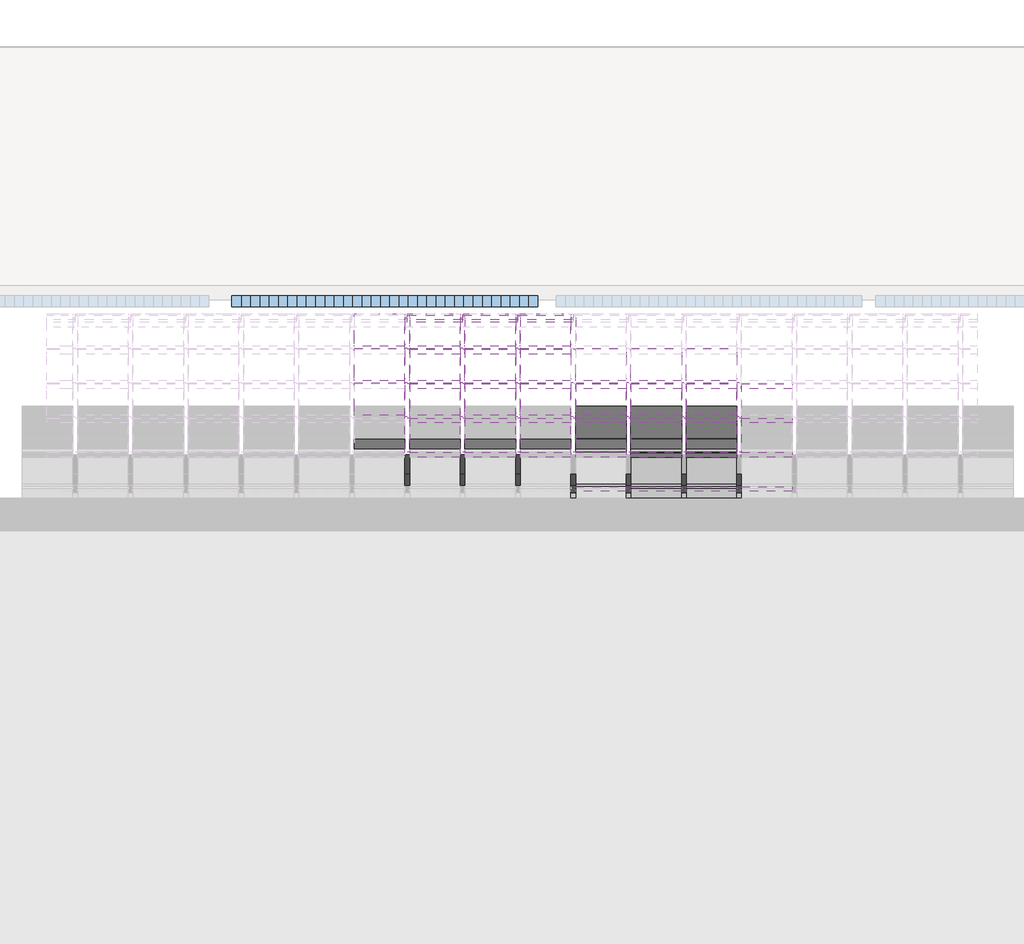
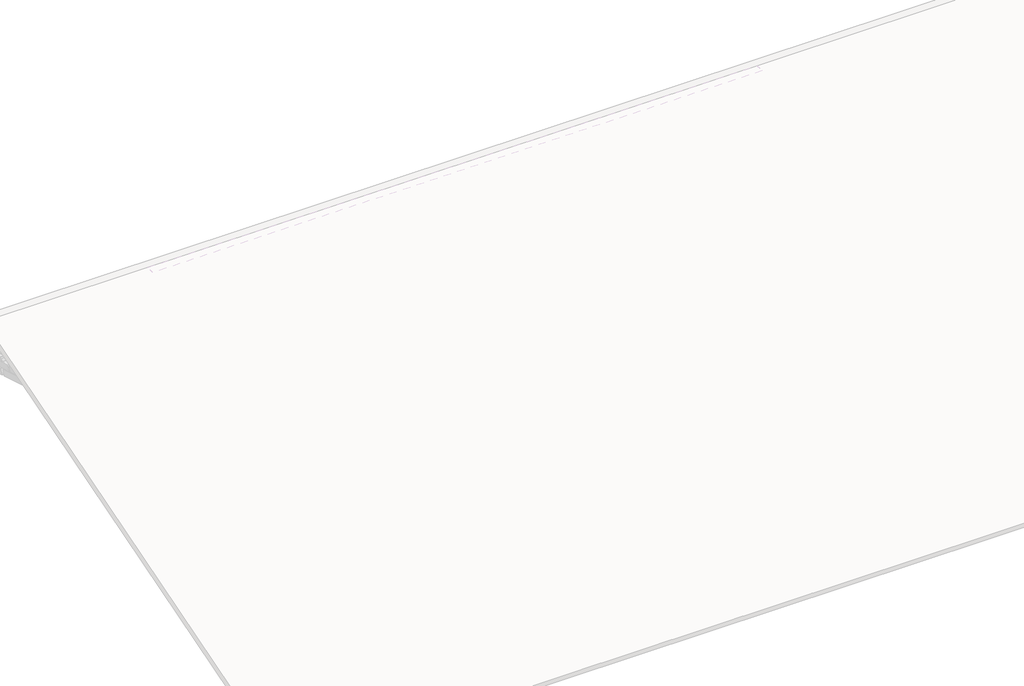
# One storey, part 20 of 57: 88 members, 32 plates, 1 window.
"""IFC4 building model written with IfcOpenShell, lengths in millimetres."""

from ifc_helpers import new_model, si_unit, origin, place, context, project, spatial, transform, mapped, element, save
from components import rectangular_mullion_4c4137b9, rectangular_mullion_59984080, rectangular_mullion_2d2423ea, rectangular_mullion_3ac3718c, rectangular_mullion_caibro_df98490b, rectangular_mullion_caibro_e4384bba, rectangular_mullion_caibro_0993a3cf, rectangular_mullion_caibro_9bd7bc61, rectangular_mullion_caibro_650698a1, empty_system_panel_vazio_178faf58, empty_system_panel_vazio_2c78850d, window_60306791, window_6c828501, window_02d14e1e

model = new_model("IFC4")

# Units and contexts
model_context = context("Model", 3, world=origin())
ifc_project = project(units=[si_unit("LENGTHUNIT", "METRE", prefix="MILLI")], contexts=[model_context])

# Site, building, storey
site = spatial("IfcSite", under=ifc_project)
building = spatial("IfcBuilding", under=site)
storey = spatial("IfcBuildingStorey", under=building, Name="Nível 2", Elevation=4100.0)

# Members
placement = place(None, origin())
rectangular_mullion_shape = rectangular_mullion_4c4137b9(model_context)
element("IfcMember", 1, ObjectType="Rectangular Mullion : Ripa", at=placement, inside=storey, context=model_context, shape_type="MappedRepresentation", body=[
    mapped(rectangular_mullion_shape, transform((8319.2829728, 15566.1284427, 5819.8877114), x_axis=(0.0, 0.9578262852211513, 0.2873478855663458), y_axis=(0.0, 0.2873478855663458, -0.9578262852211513), z_axis=(-1.0, 0.0, 0.0))),
])
element("IfcMember", 2, ObjectType="Rectangular Mullion : Ripa", at=placement, inside=storey, context=model_context, shape_type="MappedRepresentation", body=[
    mapped(rectangular_mullion_shape, transform((8916.3377293, 15566.1284427, 5819.8877114), x_axis=(0.0, 0.9578262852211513, 0.2873478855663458), y_axis=(0.0, 0.2873478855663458, -0.9578262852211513), z_axis=(-1.0, 0.0, 0.0))),
])
element("IfcMember", 3, ObjectType="Rectangular Mullion : Ripa", at=placement, inside=storey, context=model_context, shape_type="MappedRepresentation", body=[
    mapped(rectangular_mullion_shape, transform((9513.3924857, 15566.1284427, 5819.8877114), x_axis=(0.0, 0.9578262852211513, 0.2873478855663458), y_axis=(0.0, 0.2873478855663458, -0.9578262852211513), z_axis=(-1.0, 0.0, 0.0))),
])
rectangular_mullion_2_shape = rectangular_mullion_59984080(model_context)
element("IfcMember", 4, ObjectType="Rectangular Mullion : Ripa", at=placement, inside=storey, context=model_context, shape_type="MappedRepresentation", body=[
    mapped(rectangular_mullion_2_shape, transform((10135.4472421, 13345.0648907, 5153.5686458), x_axis=(0.0, 0.9578262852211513, 0.2873478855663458), y_axis=(0.0, 0.2873478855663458, -0.9578262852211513), z_axis=(-1.0, 0.0, 0.0))),
])
element("IfcMember", 5, ObjectType="Rectangular Mullion : Ripa", at=placement, inside=storey, context=model_context, shape_type="MappedRepresentation", body=[
    mapped(rectangular_mullion_2_shape, transform((10732.5019985, 13345.0648907, 5153.5686458), x_axis=(0.0, 0.9578262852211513, 0.2873478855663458), y_axis=(0.0, 0.2873478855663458, -0.9578262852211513), z_axis=(-1.0, 0.0, 0.0))),
])
element("IfcMember", 6, ObjectType="Rectangular Mullion : Ripa", at=placement, inside=storey, context=model_context, shape_type="MappedRepresentation", body=[
    mapped(rectangular_mullion_2_shape, transform((11329.556755, 13345.0648907, 5153.5686458), x_axis=(0.0, 0.9578262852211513, 0.2873478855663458), y_axis=(0.0, 0.2873478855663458, -0.9578262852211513), z_axis=(-1.0, 0.0, 0.0))),
])
element("IfcMember", 7, ObjectType="Rectangular Mullion : Ripa", at=placement, inside=storey, context=model_context, shape_type="MappedRepresentation", body=[
    mapped(rectangular_mullion_2_shape, transform((11926.6115114, 13345.0648907, 5153.5686458), x_axis=(0.0, 0.9578262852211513, 0.2873478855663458), y_axis=(0.0, 0.2873478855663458, -0.9578262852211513), z_axis=(-1.0, 0.0, 0.0))),
])
element("IfcMember", 8, ObjectType="Rectangular Mullion : Ripa", at=placement, inside=storey, context=model_context, shape_type="MappedRepresentation", body=[
    mapped(rectangular_mullion_2_shape, transform((10135.4472421, 13715.2421494, 5264.6218234), x_axis=(0.0, 0.9578262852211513, 0.2873478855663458), y_axis=(0.0, 0.2873478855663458, -0.9578262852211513), z_axis=(-1.0, 0.0, 0.0))),
])
element("IfcMember", 9, ObjectType="Rectangular Mullion : Ripa", at=placement, inside=storey, context=model_context, shape_type="MappedRepresentation", body=[
    mapped(rectangular_mullion_2_shape, transform((10732.5019985, 13715.2421494, 5264.6218234), x_axis=(0.0, 0.9578262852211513, 0.2873478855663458), y_axis=(0.0, 0.2873478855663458, -0.9578262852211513), z_axis=(-1.0, 0.0, 0.0))),
])
element("IfcMember", 10, ObjectType="Rectangular Mullion : Ripa", at=placement, inside=storey, context=model_context, shape_type="MappedRepresentation", body=[
    mapped(rectangular_mullion_2_shape, transform((11329.556755, 13715.2421494, 5264.6218234), x_axis=(0.0, 0.9578262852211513, 0.2873478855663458), y_axis=(0.0, 0.2873478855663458, -0.9578262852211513), z_axis=(-1.0, 0.0, 0.0))),
])
element("IfcMember", 11, ObjectType="Rectangular Mullion : Ripa", at=placement, inside=storey, context=model_context, shape_type="MappedRepresentation", body=[
    mapped(rectangular_mullion_2_shape, transform((11926.6115114, 13715.2421494, 5264.6218234), x_axis=(0.0, 0.9578262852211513, 0.2873478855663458), y_axis=(0.0, 0.2873478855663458, -0.9578262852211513), z_axis=(-1.0, 0.0, 0.0))),
])
element("IfcMember", 12, ObjectType="Rectangular Mullion : Ripa", at=placement, inside=storey, context=model_context, shape_type="MappedRepresentation", body=[
    mapped(rectangular_mullion_2_shape, transform((8344.2829728, 14085.4194081, 5375.675001), x_axis=(0.0, 0.9578262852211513, 0.2873478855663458), y_axis=(0.0, 0.2873478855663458, -0.9578262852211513), z_axis=(-1.0, 0.0, 0.0))),
])
element("IfcMember", 13, ObjectType="Rectangular Mullion : Ripa", at=placement, inside=storey, context=model_context, shape_type="MappedRepresentation", body=[
    mapped(rectangular_mullion_2_shape, transform((8941.3377293, 14085.4194081, 5375.675001), x_axis=(0.0, 0.9578262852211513, 0.2873478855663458), y_axis=(0.0, 0.2873478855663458, -0.9578262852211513), z_axis=(-1.0, 0.0, 0.0))),
])
element("IfcMember", 14, ObjectType="Rectangular Mullion : Ripa", at=placement, inside=storey, context=model_context, shape_type="MappedRepresentation", body=[
    mapped(rectangular_mullion_2_shape, transform((9538.3924857, 14085.4194081, 5375.675001), x_axis=(0.0, 0.9578262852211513, 0.2873478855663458), y_axis=(0.0, 0.2873478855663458, -0.9578262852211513), z_axis=(-1.0, 0.0, 0.0))),
])
element("IfcMember", 15, ObjectType="Rectangular Mullion : Ripa", at=placement, inside=storey, context=model_context, shape_type="MappedRepresentation", body=[
    mapped(rectangular_mullion_2_shape, transform((10135.4472421, 14085.4194081, 5375.675001), x_axis=(0.0, 0.9578262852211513, 0.2873478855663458), y_axis=(0.0, 0.2873478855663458, -0.9578262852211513), z_axis=(-1.0, 0.0, 0.0))),
])
element("IfcMember", 16, ObjectType="Rectangular Mullion : Ripa", at=placement, inside=storey, context=model_context, shape_type="MappedRepresentation", body=[
    mapped(rectangular_mullion_2_shape, transform((10732.5019985, 14085.4194081, 5375.675001), x_axis=(0.0, 0.9578262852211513, 0.2873478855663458), y_axis=(0.0, 0.2873478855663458, -0.9578262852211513), z_axis=(-1.0, 0.0, 0.0))),
])
element("IfcMember", 17, ObjectType="Rectangular Mullion : Ripa", at=placement, inside=storey, context=model_context, shape_type="MappedRepresentation", body=[
    mapped(rectangular_mullion_2_shape, transform((11329.556755, 14085.4194081, 5375.675001), x_axis=(0.0, 0.9578262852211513, 0.2873478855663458), y_axis=(0.0, 0.2873478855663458, -0.9578262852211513), z_axis=(-1.0, 0.0, 0.0))),
])
element("IfcMember", 18, ObjectType="Rectangular Mullion : Ripa", at=placement, inside=storey, context=model_context, shape_type="MappedRepresentation", body=[
    mapped(rectangular_mullion_2_shape, transform((11926.6115114, 14085.4194081, 5375.675001), x_axis=(0.0, 0.9578262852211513, 0.2873478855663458), y_axis=(0.0, 0.2873478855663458, -0.9578262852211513), z_axis=(-1.0, 0.0, 0.0))),
])
element("IfcMember", 19, ObjectType="Rectangular Mullion : Ripa", at=placement, inside=storey, context=model_context, shape_type="MappedRepresentation", body=[
    mapped(rectangular_mullion_2_shape, transform((8344.2829728, 14455.5966667, 5486.7281786), x_axis=(0.0, 0.9578262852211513, 0.2873478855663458), y_axis=(0.0, 0.2873478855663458, -0.9578262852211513), z_axis=(-1.0, 0.0, 0.0))),
])
element("IfcMember", 20, ObjectType="Rectangular Mullion : Ripa", at=placement, inside=storey, context=model_context, shape_type="MappedRepresentation", body=[
    mapped(rectangular_mullion_2_shape, transform((8941.3377293, 14455.5966667, 5486.7281786), x_axis=(0.0, 0.9578262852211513, 0.2873478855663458), y_axis=(0.0, 0.2873478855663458, -0.9578262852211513), z_axis=(-1.0, 0.0, 0.0))),
])
element("IfcMember", 21, ObjectType="Rectangular Mullion : Ripa", at=placement, inside=storey, context=model_context, shape_type="MappedRepresentation", body=[
    mapped(rectangular_mullion_2_shape, transform((9538.3924857, 14455.5966667, 5486.7281786), x_axis=(0.0, 0.9578262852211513, 0.2873478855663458), y_axis=(0.0, 0.2873478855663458, -0.9578262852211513), z_axis=(-1.0, 0.0, 0.0))),
])
element("IfcMember", 22, ObjectType="Rectangular Mullion : Ripa", at=placement, inside=storey, context=model_context, shape_type="MappedRepresentation", body=[
    mapped(rectangular_mullion_2_shape, transform((10135.4472421, 14455.5966667, 5486.7281786), x_axis=(0.0, 0.9578262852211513, 0.2873478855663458), y_axis=(0.0, 0.2873478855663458, -0.9578262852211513), z_axis=(-1.0, 0.0, 0.0))),
])
element("IfcMember", 23, ObjectType="Rectangular Mullion : Ripa", at=placement, inside=storey, context=model_context, shape_type="MappedRepresentation", body=[
    mapped(rectangular_mullion_2_shape, transform((10732.5019985, 14455.5966667, 5486.7281786), x_axis=(0.0, 0.9578262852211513, 0.2873478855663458), y_axis=(0.0, 0.2873478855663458, -0.9578262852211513), z_axis=(-1.0, 0.0, 0.0))),
])
element("IfcMember", 24, ObjectType="Rectangular Mullion : Ripa", at=placement, inside=storey, context=model_context, shape_type="MappedRepresentation", body=[
    mapped(rectangular_mullion_2_shape, transform((11329.556755, 14455.5966667, 5486.7281786), x_axis=(0.0, 0.9578262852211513, 0.2873478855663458), y_axis=(0.0, 0.2873478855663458, -0.9578262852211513), z_axis=(-1.0, 0.0, 0.0))),
])
element("IfcMember", 25, ObjectType="Rectangular Mullion : Ripa", at=placement, inside=storey, context=model_context, shape_type="MappedRepresentation", body=[
    mapped(rectangular_mullion_2_shape, transform((11926.6115114, 14455.5966667, 5486.7281786), x_axis=(0.0, 0.9578262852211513, 0.2873478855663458), y_axis=(0.0, 0.2873478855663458, -0.9578262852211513), z_axis=(-1.0, 0.0, 0.0))),
])
element("IfcMember", 26, ObjectType="Rectangular Mullion : Ripa", at=placement, inside=storey, context=model_context, shape_type="MappedRepresentation", body=[
    mapped(rectangular_mullion_2_shape, transform((8344.2829728, 14825.7739254, 5597.7813562), x_axis=(0.0, 0.9578262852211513, 0.2873478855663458), y_axis=(0.0, 0.2873478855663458, -0.9578262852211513), z_axis=(-1.0, 0.0, 0.0))),
])
element("IfcMember", 27, ObjectType="Rectangular Mullion : Ripa", at=placement, inside=storey, context=model_context, shape_type="MappedRepresentation", body=[
    mapped(rectangular_mullion_2_shape, transform((8941.3377293, 14825.7739254, 5597.7813562), x_axis=(0.0, 0.9578262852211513, 0.2873478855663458), y_axis=(0.0, 0.2873478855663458, -0.9578262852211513), z_axis=(-1.0, 0.0, 0.0))),
])
element("IfcMember", 28, ObjectType="Rectangular Mullion : Ripa", at=placement, inside=storey, context=model_context, shape_type="MappedRepresentation", body=[
    mapped(rectangular_mullion_2_shape, transform((9538.3924857, 14825.7739254, 5597.7813562), x_axis=(0.0, 0.9578262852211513, 0.2873478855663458), y_axis=(0.0, 0.2873478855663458, -0.9578262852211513), z_axis=(-1.0, 0.0, 0.0))),
])
element("IfcMember", 29, ObjectType="Rectangular Mullion : Ripa", at=placement, inside=storey, context=model_context, shape_type="MappedRepresentation", body=[
    mapped(rectangular_mullion_2_shape, transform((10135.4472421, 14825.7739254, 5597.7813562), x_axis=(0.0, 0.9578262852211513, 0.2873478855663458), y_axis=(0.0, 0.2873478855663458, -0.9578262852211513), z_axis=(-1.0, 0.0, 0.0))),
])
element("IfcMember", 30, ObjectType="Rectangular Mullion : Ripa", at=placement, inside=storey, context=model_context, shape_type="MappedRepresentation", body=[
    mapped(rectangular_mullion_2_shape, transform((10732.5019985, 14825.7739254, 5597.7813562), x_axis=(0.0, 0.9578262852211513, 0.2873478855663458), y_axis=(0.0, 0.2873478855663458, -0.9578262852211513), z_axis=(-1.0, 0.0, 0.0))),
])
element("IfcMember", 31, ObjectType="Rectangular Mullion : Ripa", at=placement, inside=storey, context=model_context, shape_type="MappedRepresentation", body=[
    mapped(rectangular_mullion_2_shape, transform((11329.556755, 14825.7739254, 5597.7813562), x_axis=(0.0, 0.9578262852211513, 0.2873478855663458), y_axis=(0.0, 0.2873478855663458, -0.9578262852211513), z_axis=(-1.0, 0.0, 0.0))),
])
element("IfcMember", 32, ObjectType="Rectangular Mullion : Ripa", at=placement, inside=storey, context=model_context, shape_type="MappedRepresentation", body=[
    mapped(rectangular_mullion_2_shape, transform((11926.6115114, 14825.7739254, 5597.7813562), x_axis=(0.0, 0.9578262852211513, 0.2873478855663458), y_axis=(0.0, 0.2873478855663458, -0.9578262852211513), z_axis=(-1.0, 0.0, 0.0))),
])
element("IfcMember", 33, ObjectType="Rectangular Mullion : Ripa", at=placement, inside=storey, context=model_context, shape_type="MappedRepresentation", body=[
    mapped(rectangular_mullion_2_shape, transform((8344.2829728, 15195.9511841, 5708.8345338), x_axis=(0.0, 0.9578262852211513, 0.2873478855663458), y_axis=(0.0, 0.2873478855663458, -0.9578262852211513), z_axis=(-1.0, 0.0, 0.0))),
])
element("IfcMember", 34, ObjectType="Rectangular Mullion : Ripa", at=placement, inside=storey, context=model_context, shape_type="MappedRepresentation", body=[
    mapped(rectangular_mullion_2_shape, transform((8941.3377293, 15195.9511841, 5708.8345338), x_axis=(0.0, 0.9578262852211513, 0.2873478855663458), y_axis=(0.0, 0.2873478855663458, -0.9578262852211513), z_axis=(-1.0, 0.0, 0.0))),
])
element("IfcMember", 35, ObjectType="Rectangular Mullion : Ripa", at=placement, inside=storey, context=model_context, shape_type="MappedRepresentation", body=[
    mapped(rectangular_mullion_2_shape, transform((9538.3924857, 15195.9511841, 5708.8345338), x_axis=(0.0, 0.9578262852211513, 0.2873478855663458), y_axis=(0.0, 0.2873478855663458, -0.9578262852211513), z_axis=(-1.0, 0.0, 0.0))),
])
rectangular_mullion_3_shape = rectangular_mullion_2d2423ea(model_context)
element("IfcMember", 36, ObjectType="Rectangular Mullion : Terça", at=placement, inside=storey, context=model_context, shape_type="MappedRepresentation", body=[
    mapped(rectangular_mullion_3_shape, transform((10135.4472421, 13411.2689826, 5110.7880343), x_axis=(0.0, 0.9578262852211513, 0.2873478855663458), y_axis=(0.0, 0.2873478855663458, -0.9578262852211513), z_axis=(-1.0, 0.0, 0.0))),
])
element("IfcMember", 37, ObjectType="Rectangular Mullion : Terça", at=placement, inside=storey, context=model_context, shape_type="MappedRepresentation", body=[
    mapped(rectangular_mullion_3_shape, transform((10732.5019985, 13411.2689826, 5110.7880343), x_axis=(0.0, 0.9578262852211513, 0.2873478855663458), y_axis=(0.0, 0.2873478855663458, -0.9578262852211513), z_axis=(-1.0, 0.0, 0.0))),
])
element("IfcMember", 38, ObjectType="Rectangular Mullion : Terça", at=placement, inside=storey, context=model_context, shape_type="MappedRepresentation", body=[
    mapped(rectangular_mullion_3_shape, transform((11329.556755, 13411.2689826, 5110.7880343), x_axis=(0.0, 0.9578262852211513, 0.2873478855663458), y_axis=(0.0, 0.2873478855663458, -0.9578262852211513), z_axis=(-1.0, 0.0, 0.0))),
])
element("IfcMember", 39, ObjectType="Rectangular Mullion : Terça", at=placement, inside=storey, context=model_context, shape_type="MappedRepresentation", body=[
    mapped(rectangular_mullion_3_shape, transform((11926.6115114, 13411.2689826, 5110.7880343), x_axis=(0.0, 0.9578262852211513, 0.2873478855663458), y_axis=(0.0, 0.2873478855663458, -0.9578262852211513), z_axis=(-1.0, 0.0, 0.0))),
])
rectangular_mullion_4_shape = rectangular_mullion_3ac3718c(model_context)
element("IfcMember", 40, ObjectType="Rectangular Mullion : Terça", at=placement, inside=storey, context=model_context, shape_type="MappedRepresentation", body=[
    mapped(rectangular_mullion_4_shape, transform((8319.2829728, 15566.1284427, 5757.2458723), x_axis=(0.0, 0.9578262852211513, 0.2873478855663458), y_axis=(0.0, 0.2873478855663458, -0.9578262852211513), z_axis=(-1.0, 0.0, 0.0))),
])
element("IfcMember", 41, ObjectType="Rectangular Mullion : Terça", at=placement, inside=storey, context=model_context, shape_type="MappedRepresentation", body=[
    mapped(rectangular_mullion_4_shape, transform((8916.3377293, 15566.1284427, 5757.2458723), x_axis=(0.0, 0.9578262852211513, 0.2873478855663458), y_axis=(0.0, 0.2873478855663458, -0.9578262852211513), z_axis=(-1.0, 0.0, 0.0))),
])
element("IfcMember", 42, ObjectType="Rectangular Mullion : Terça", at=placement, inside=storey, context=model_context, shape_type="MappedRepresentation", body=[
    mapped(rectangular_mullion_4_shape, transform((9513.3924857, 15566.1284427, 5757.2458723), x_axis=(0.0, 0.9578262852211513, 0.2873478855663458), y_axis=(0.0, 0.2873478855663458, -0.9578262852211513), z_axis=(-1.0, 0.0, 0.0))),
])
rectangular_mullion_caibro_shape = rectangular_mullion_caibro_df98490b(model_context)
element("IfcMember", 43, ObjectType="Rectangular Mullion : Caibro", at=placement, inside=storey, context=model_context, shape_type="MappedRepresentation", body=[
    mapped(rectangular_mullion_caibro_shape, transform((8319.2829728, 15518.2371285, 5805.5203171), x_axis=(1.0, 0.0, 0.0), y_axis=(0.0, 0.28734788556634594, -0.9578262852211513), z_axis=(0.0, 0.9578262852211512, 0.2873478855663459))),
])
element("IfcMember", 44, ObjectType="Rectangular Mullion : Caibro", at=placement, inside=storey, context=model_context, shape_type="MappedRepresentation", body=[
    mapped(rectangular_mullion_caibro_shape, transform((8916.3377293, 15518.2371285, 5805.5203171), x_axis=(1.0, 0.0, 0.0), y_axis=(0.0, 0.28734788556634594, -0.9578262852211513), z_axis=(0.0, 0.9578262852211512, 0.2873478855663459))),
])
element("IfcMember", 45, ObjectType="Rectangular Mullion : Caibro", at=placement, inside=storey, context=model_context, shape_type="MappedRepresentation", body=[
    mapped(rectangular_mullion_caibro_shape, transform((9513.3924857, 15518.2371285, 5805.5203171), x_axis=(1.0, 0.0, 0.0), y_axis=(0.0, 0.28734788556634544, -0.9578262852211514), z_axis=(0.0, 0.9578262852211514, 0.28734788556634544))),
])
element("IfcMember", 46, ObjectType="Rectangular Mullion : Caibro", at=placement, inside=storey, context=model_context, shape_type="MappedRepresentation", body=[
    mapped(rectangular_mullion_caibro_shape, transform((10110.4472421, 15518.2371285, 5805.5203171), x_axis=(1.0, 0.0, 0.0), y_axis=(0.0, 0.28734788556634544, -0.9578262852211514), z_axis=(0.0, 0.9578262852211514, 0.28734788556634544))),
])
rectangular_mullion_caibro_2_shape = rectangular_mullion_caibro_e4384bba(model_context)
element("IfcMember", 47, ObjectType="Rectangular Mullion : Caibro", at=placement, inside=storey, context=model_context, shape_type="MappedRepresentation", body=[
    mapped(rectangular_mullion_caibro_2_shape, transform((8319.2829728, 14085.4194081, 5375.675001), x_axis=(1.0, 0.0, 0.0), y_axis=(0.0, 0.28734788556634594, -0.9578262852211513), z_axis=(0.0, 0.9578262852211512, 0.2873478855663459))),
])
element("IfcMember", 48, ObjectType="Rectangular Mullion : Caibro", at=placement, inside=storey, context=model_context, shape_type="MappedRepresentation", body=[
    mapped(rectangular_mullion_caibro_2_shape, transform((8319.2829728, 14455.5966667, 5486.7281786), x_axis=(1.0, 0.0, 0.0), y_axis=(0.0, 0.28734788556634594, -0.9578262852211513), z_axis=(0.0, 0.9578262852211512, 0.2873478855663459))),
])
element("IfcMember", 49, ObjectType="Rectangular Mullion : Caibro", at=placement, inside=storey, context=model_context, shape_type="MappedRepresentation", body=[
    mapped(rectangular_mullion_caibro_2_shape, transform((8319.2829728, 14825.7739254, 5597.7813562), x_axis=(1.0, 0.0, 0.0), y_axis=(0.0, 0.28734788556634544, -0.9578262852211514), z_axis=(0.0, 0.9578262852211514, 0.28734788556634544))),
])
element("IfcMember", 50, ObjectType="Rectangular Mullion : Caibro", at=placement, inside=storey, context=model_context, shape_type="MappedRepresentation", body=[
    mapped(rectangular_mullion_caibro_2_shape, transform((8319.2829728, 15195.9511841, 5708.8345338), x_axis=(1.0, 0.0, 0.0), y_axis=(0.0, 0.28734788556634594, -0.9578262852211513), z_axis=(0.0, 0.9578262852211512, 0.2873478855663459))),
])
element("IfcMember", 51, ObjectType="Rectangular Mullion : Caibro", at=placement, inside=storey, context=model_context, shape_type="MappedRepresentation", body=[
    mapped(rectangular_mullion_caibro_2_shape, transform((8916.3377293, 14085.4194081, 5375.675001), x_axis=(1.0, 0.0, 0.0), y_axis=(0.0, 0.28734788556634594, -0.9578262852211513), z_axis=(0.0, 0.9578262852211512, 0.2873478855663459))),
])
element("IfcMember", 52, ObjectType="Rectangular Mullion : Caibro", at=placement, inside=storey, context=model_context, shape_type="MappedRepresentation", body=[
    mapped(rectangular_mullion_caibro_2_shape, transform((8916.3377293, 14455.5966667, 5486.7281786), x_axis=(1.0, 0.0, 0.0), y_axis=(0.0, 0.28734788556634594, -0.9578262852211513), z_axis=(0.0, 0.9578262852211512, 0.2873478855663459))),
])
element("IfcMember", 53, ObjectType="Rectangular Mullion : Caibro", at=placement, inside=storey, context=model_context, shape_type="MappedRepresentation", body=[
    mapped(rectangular_mullion_caibro_2_shape, transform((8916.3377293, 14825.7739254, 5597.7813562), x_axis=(1.0, 0.0, 0.0), y_axis=(0.0, 0.28734788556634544, -0.9578262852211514), z_axis=(0.0, 0.9578262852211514, 0.28734788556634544))),
])
element("IfcMember", 54, ObjectType="Rectangular Mullion : Caibro", at=placement, inside=storey, context=model_context, shape_type="MappedRepresentation", body=[
    mapped(rectangular_mullion_caibro_2_shape, transform((8916.3377293, 15195.9511841, 5708.8345338), x_axis=(1.0, 0.0, 0.0), y_axis=(0.0, 0.28734788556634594, -0.9578262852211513), z_axis=(0.0, 0.9578262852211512, 0.2873478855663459))),
])
element("IfcMember", 55, ObjectType="Rectangular Mullion : Caibro", at=placement, inside=storey, context=model_context, shape_type="MappedRepresentation", body=[
    mapped(rectangular_mullion_caibro_2_shape, transform((9513.3924857, 14085.4194081, 5375.675001), x_axis=(1.0, 0.0, 0.0), y_axis=(0.0, 0.28734788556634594, -0.9578262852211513), z_axis=(0.0, 0.9578262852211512, 0.2873478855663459))),
])
element("IfcMember", 56, ObjectType="Rectangular Mullion : Caibro", at=placement, inside=storey, context=model_context, shape_type="MappedRepresentation", body=[
    mapped(rectangular_mullion_caibro_2_shape, transform((9513.3924857, 14455.5966667, 5486.7281786), x_axis=(1.0, 0.0, 0.0), y_axis=(0.0, 0.2873478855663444, -0.9578262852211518), z_axis=(0.0, 0.9578262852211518, 0.2873478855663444))),
])
element("IfcMember", 57, ObjectType="Rectangular Mullion : Caibro", at=placement, inside=storey, context=model_context, shape_type="MappedRepresentation", body=[
    mapped(rectangular_mullion_caibro_2_shape, transform((9513.3924857, 14825.7739254, 5597.7813562), x_axis=(1.0, 0.0, 0.0), y_axis=(0.0, 0.287347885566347, -0.9578262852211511), z_axis=(0.0, 0.9578262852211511, 0.287347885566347))),
])
element("IfcMember", 58, ObjectType="Rectangular Mullion : Caibro", at=placement, inside=storey, context=model_context, shape_type="MappedRepresentation", body=[
    mapped(rectangular_mullion_caibro_2_shape, transform((9513.3924857, 15195.9511841, 5708.8345338), x_axis=(1.0, 0.0, 0.0), y_axis=(0.0, 0.28734788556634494, -0.9578262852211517), z_axis=(0.0, 0.9578262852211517, 0.28734788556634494))),
])
element("IfcMember", 59, ObjectType="Rectangular Mullion : Caibro", at=placement, inside=storey, context=model_context, shape_type="MappedRepresentation", body=[
    mapped(rectangular_mullion_caibro_2_shape, transform((10110.4472421, 13345.0648907, 5153.5686458), x_axis=(1.0, 0.0, 0.0), y_axis=(0.0, 0.28734788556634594, -0.9578262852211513), z_axis=(0.0, 0.9578262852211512, 0.2873478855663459))),
])
element("IfcMember", 60, ObjectType="Rectangular Mullion : Caibro", at=placement, inside=storey, context=model_context, shape_type="MappedRepresentation", body=[
    mapped(rectangular_mullion_caibro_2_shape, transform((10110.4472421, 13715.2421494, 5264.6218234), x_axis=(1.0, 0.0, 0.0), y_axis=(0.0, 0.28734788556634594, -0.9578262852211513), z_axis=(0.0, 0.9578262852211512, 0.2873478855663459))),
])
element("IfcMember", 61, ObjectType="Rectangular Mullion : Caibro", at=placement, inside=storey, context=model_context, shape_type="MappedRepresentation", body=[
    mapped(rectangular_mullion_caibro_2_shape, transform((10110.4472421, 14085.4194081, 5375.675001), x_axis=(1.0, 0.0, 0.0), y_axis=(0.0, 0.28734788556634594, -0.9578262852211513), z_axis=(0.0, 0.9578262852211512, 0.2873478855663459))),
])
element("IfcMember", 62, ObjectType="Rectangular Mullion : Caibro", at=placement, inside=storey, context=model_context, shape_type="MappedRepresentation", body=[
    mapped(rectangular_mullion_caibro_2_shape, transform((10110.4472421, 14455.5966667, 5486.7281786), x_axis=(1.0, 0.0, 0.0), y_axis=(0.0, 0.2873478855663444, -0.9578262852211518), z_axis=(0.0, 0.9578262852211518, 0.2873478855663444))),
])
element("IfcMember", 63, ObjectType="Rectangular Mullion : Caibro", at=placement, inside=storey, context=model_context, shape_type="MappedRepresentation", body=[
    mapped(rectangular_mullion_caibro_2_shape, transform((10110.4472421, 14825.7739254, 5597.7813562), x_axis=(1.0, 0.0, 0.0), y_axis=(0.0, 0.287347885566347, -0.9578262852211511), z_axis=(0.0, 0.9578262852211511, 0.287347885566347))),
])
element("IfcMember", 64, ObjectType="Rectangular Mullion : Caibro", at=placement, inside=storey, context=model_context, shape_type="MappedRepresentation", body=[
    mapped(rectangular_mullion_caibro_2_shape, transform((10707.5019985, 13345.0648907, 5153.5686458), x_axis=(1.0, 0.0, 0.0), y_axis=(0.0, 0.28734788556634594, -0.9578262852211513), z_axis=(0.0, 0.9578262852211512, 0.2873478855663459))),
])
element("IfcMember", 65, ObjectType="Rectangular Mullion : Caibro", at=placement, inside=storey, context=model_context, shape_type="MappedRepresentation", body=[
    mapped(rectangular_mullion_caibro_2_shape, transform((10707.5019985, 13715.2421494, 5264.6218234), x_axis=(1.0, 0.0, 0.0), y_axis=(0.0, 0.28734788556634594, -0.9578262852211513), z_axis=(0.0, 0.9578262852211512, 0.2873478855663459))),
])
element("IfcMember", 66, ObjectType="Rectangular Mullion : Caibro", at=placement, inside=storey, context=model_context, shape_type="MappedRepresentation", body=[
    mapped(rectangular_mullion_caibro_2_shape, transform((10707.5019985, 14085.4194081, 5375.675001), x_axis=(1.0, 0.0, 0.0), y_axis=(0.0, 0.28734788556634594, -0.9578262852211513), z_axis=(0.0, 0.9578262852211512, 0.2873478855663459))),
])
element("IfcMember", 67, ObjectType="Rectangular Mullion : Caibro", at=placement, inside=storey, context=model_context, shape_type="MappedRepresentation", body=[
    mapped(rectangular_mullion_caibro_2_shape, transform((10707.5019985, 14455.5966667, 5486.7281786), x_axis=(1.0, 0.0, 0.0), y_axis=(0.0, 0.2873478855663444, -0.9578262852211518), z_axis=(0.0, 0.9578262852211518, 0.2873478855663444))),
])
element("IfcMember", 68, ObjectType="Rectangular Mullion : Caibro", at=placement, inside=storey, context=model_context, shape_type="MappedRepresentation", body=[
    mapped(rectangular_mullion_caibro_2_shape, transform((10707.5019985, 14825.7739254, 5597.7813562), x_axis=(1.0, 0.0, 0.0), y_axis=(0.0, 0.287347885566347, -0.9578262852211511), z_axis=(0.0, 0.9578262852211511, 0.287347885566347))),
])
element("IfcMember", 69, ObjectType="Rectangular Mullion : Caibro", at=placement, inside=storey, context=model_context, shape_type="MappedRepresentation", body=[
    mapped(rectangular_mullion_caibro_2_shape, transform((11304.556755, 13345.0648907, 5153.5686458), x_axis=(1.0, 0.0, 0.0), y_axis=(0.0, 0.28734788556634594, -0.9578262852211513), z_axis=(0.0, 0.9578262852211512, 0.2873478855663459))),
])
element("IfcMember", 70, ObjectType="Rectangular Mullion : Caibro", at=placement, inside=storey, context=model_context, shape_type="MappedRepresentation", body=[
    mapped(rectangular_mullion_caibro_2_shape, transform((11304.556755, 13715.2421494, 5264.6218234), x_axis=(1.0, 0.0, 0.0), y_axis=(0.0, 0.28734788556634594, -0.9578262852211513), z_axis=(0.0, 0.9578262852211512, 0.2873478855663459))),
])
element("IfcMember", 71, ObjectType="Rectangular Mullion : Caibro", at=placement, inside=storey, context=model_context, shape_type="MappedRepresentation", body=[
    mapped(rectangular_mullion_caibro_2_shape, transform((11304.556755, 14085.4194081, 5375.675001), x_axis=(1.0, 0.0, 0.0), y_axis=(0.0, 0.28734788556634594, -0.9578262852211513), z_axis=(0.0, 0.9578262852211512, 0.2873478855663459))),
])
element("IfcMember", 72, ObjectType="Rectangular Mullion : Caibro", at=placement, inside=storey, context=model_context, shape_type="MappedRepresentation", body=[
    mapped(rectangular_mullion_caibro_2_shape, transform((11304.556755, 14455.5966667, 5486.7281786), x_axis=(1.0, 0.0, 0.0), y_axis=(0.0, 0.2873478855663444, -0.9578262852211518), z_axis=(0.0, 0.9578262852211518, 0.2873478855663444))),
])
element("IfcMember", 73, ObjectType="Rectangular Mullion : Caibro", at=placement, inside=storey, context=model_context, shape_type="MappedRepresentation", body=[
    mapped(rectangular_mullion_caibro_2_shape, transform((11304.556755, 14825.7739254, 5597.7813562), x_axis=(1.0, 0.0, 0.0), y_axis=(0.0, 0.287347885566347, -0.9578262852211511), z_axis=(0.0, 0.9578262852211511, 0.287347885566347))),
])
element("IfcMember", 74, ObjectType="Rectangular Mullion : Caibro", at=placement, inside=storey, context=model_context, shape_type="MappedRepresentation", body=[
    mapped(rectangular_mullion_caibro_2_shape, transform((11901.6115114, 13345.0648907, 5153.5686458), x_axis=(1.0, 0.0, 0.0), y_axis=(0.0, 0.28734788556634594, -0.9578262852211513), z_axis=(0.0, 0.9578262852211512, 0.2873478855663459))),
])
element("IfcMember", 75, ObjectType="Rectangular Mullion : Caibro", at=placement, inside=storey, context=model_context, shape_type="MappedRepresentation", body=[
    mapped(rectangular_mullion_caibro_2_shape, transform((11901.6115114, 13715.2421494, 5264.6218234), x_axis=(1.0, 0.0, 0.0), y_axis=(0.0, 0.28734788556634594, -0.9578262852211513), z_axis=(0.0, 0.9578262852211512, 0.2873478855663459))),
])
element("IfcMember", 76, ObjectType="Rectangular Mullion : Caibro", at=placement, inside=storey, context=model_context, shape_type="MappedRepresentation", body=[
    mapped(rectangular_mullion_caibro_2_shape, transform((11901.6115114, 14085.4194081, 5375.675001), x_axis=(1.0, 0.0, 0.0), y_axis=(0.0, 0.28734788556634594, -0.9578262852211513), z_axis=(0.0, 0.9578262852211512, 0.2873478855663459))),
])
element("IfcMember", 77, ObjectType="Rectangular Mullion : Caibro", at=placement, inside=storey, context=model_context, shape_type="MappedRepresentation", body=[
    mapped(rectangular_mullion_caibro_2_shape, transform((11901.6115114, 14455.5966667, 5486.7281786), x_axis=(1.0, 0.0, 0.0), y_axis=(0.0, 0.2873478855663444, -0.9578262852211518), z_axis=(0.0, 0.9578262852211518, 0.2873478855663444))),
])
element("IfcMember", 78, ObjectType="Rectangular Mullion : Caibro", at=placement, inside=storey, context=model_context, shape_type="MappedRepresentation", body=[
    mapped(rectangular_mullion_caibro_2_shape, transform((11901.6115114, 14825.7739254, 5597.7813562), x_axis=(1.0, 0.0, 0.0), y_axis=(0.0, 0.287347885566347, -0.9578262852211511), z_axis=(0.0, 0.9578262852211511, 0.287347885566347))),
])
rectangular_mullion_caibro_3_shape = rectangular_mullion_caibro_0993a3cf(model_context)
element("IfcMember", 79, ObjectType="Rectangular Mullion : Caibro", at=placement, inside=storey, context=model_context, shape_type="MappedRepresentation", body=[
    mapped(rectangular_mullion_caibro_3_shape, transform((8319.2829728, 15508.6588656, 5740.0049992), x_axis=(1.0, 0.0, 0.0), y_axis=(0.0, 0.28734788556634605, -0.9578262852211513), z_axis=(0.0, 0.9578262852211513, 0.28734788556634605))),
])
element("IfcMember", 80, ObjectType="Rectangular Mullion : Caibro", at=placement, inside=storey, context=model_context, shape_type="MappedRepresentation", body=[
    mapped(rectangular_mullion_caibro_3_shape, transform((8916.3377293, 15508.6588656, 5740.0049992), x_axis=(1.0, 0.0, 0.0), y_axis=(0.0, 0.28734788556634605, -0.9578262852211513), z_axis=(0.0, 0.9578262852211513, 0.28734788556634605))),
])
element("IfcMember", 81, ObjectType="Rectangular Mullion : Caibro", at=placement, inside=storey, context=model_context, shape_type="MappedRepresentation", body=[
    mapped(rectangular_mullion_caibro_3_shape, transform((9513.3924857, 15508.6588656, 5740.0049992), x_axis=(1.0, 0.0, 0.0), y_axis=(0.0, 0.28734788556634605, -0.9578262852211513), z_axis=(0.0, 0.9578262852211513, 0.28734788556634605))),
])
rectangular_mullion_caibro_4_shape = rectangular_mullion_caibro_9bd7bc61(model_context)
element("IfcMember", 82, ObjectType="Rectangular Mullion : Caibro", at=placement, inside=storey, context=model_context, shape_type="MappedRepresentation", body=[
    mapped(rectangular_mullion_caibro_4_shape, transform((10110.4472421, 13411.2689826, 5110.7880343), x_axis=(1.0, 0.0, 0.0), y_axis=(0.0, 0.2873478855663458, -0.9578262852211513), z_axis=(0.0, 0.9578262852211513, 0.2873478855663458))),
])
element("IfcMember", 83, ObjectType="Rectangular Mullion : Caibro", at=placement, inside=storey, context=model_context, shape_type="MappedRepresentation", body=[
    mapped(rectangular_mullion_caibro_4_shape, transform((10707.5019985, 13411.2689826, 5110.7880343), x_axis=(1.0, 0.0, 0.0), y_axis=(0.0, 0.2873478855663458, -0.9578262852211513), z_axis=(0.0, 0.9578262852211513, 0.2873478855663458))),
])
element("IfcMember", 84, ObjectType="Rectangular Mullion : Caibro", at=placement, inside=storey, context=model_context, shape_type="MappedRepresentation", body=[
    mapped(rectangular_mullion_caibro_4_shape, transform((11304.556755, 13411.2689826, 5110.7880343), x_axis=(1.0, 0.0, 0.0), y_axis=(0.0, 0.2873478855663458, -0.9578262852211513), z_axis=(0.0, 0.9578262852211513, 0.2873478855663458))),
])
element("IfcMember", 85, ObjectType="Rectangular Mullion : Caibro", at=placement, inside=storey, context=model_context, shape_type="MappedRepresentation", body=[
    mapped(rectangular_mullion_caibro_4_shape, transform((11901.6115114, 13411.2689826, 5110.7880343), x_axis=(1.0, 0.0, 0.0), y_axis=(0.0, 0.2873478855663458, -0.9578262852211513), z_axis=(0.0, 0.9578262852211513, 0.2873478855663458))),
])
rectangular_mullion_caibro_5_shape = rectangular_mullion_caibro_650698a1(model_context)
element("IfcMember", 86, ObjectType="Rectangular Mullion : Caibro", at=placement, inside=storey, context=model_context, shape_type="MappedRepresentation", body=[
    mapped(rectangular_mullion_caibro_5_shape, transform((9497.3620711, 15772.0058221, 4410.7541277), x_axis=(-1.0, 0.0, 0.0), y_axis=(0.0, -0.2873478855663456, -0.9578262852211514), z_axis=(0.0, -0.9578262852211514, 0.2873478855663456))),
])
element("IfcMember", 87, ObjectType="Rectangular Mullion : Caibro", at=placement, inside=storey, context=model_context, shape_type="MappedRepresentation", body=[
    mapped(rectangular_mullion_caibro_5_shape, transform((8900.0135694, 15772.0058221, 4410.7541277), x_axis=(-1.0, 0.0, 0.0), y_axis=(0.0, -0.2873478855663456, -0.9578262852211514), z_axis=(0.0, -0.9578262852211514, 0.2873478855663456))),
])
element("IfcMember", 88, ObjectType="Rectangular Mullion : Caibro", at=placement, inside=storey, context=model_context, shape_type="MappedRepresentation", body=[
    mapped(rectangular_mullion_caibro_5_shape, transform((8302.6650678, 15772.0058221, 4410.7541277), x_axis=(-1.0, 0.0, 0.0), y_axis=(0.0, -0.2873478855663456, -0.9578262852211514), z_axis=(0.0, -0.9578262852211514, 0.2873478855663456))),
])

# Plates
empty_system_panel_vazio_shape = empty_system_panel_vazio_178faf58(model_context)
element("IfcPlate", 89, ObjectType="Empty System Panel : Vazio", at=placement, inside=storey, context=model_context, shape_type="MappedRepresentation", body=[
    mapped(empty_system_panel_vazio_shape, transform((11006.0293767, 13345.0648907, 5153.5686458), x_axis=(1.0, 0.0, 0.0), y_axis=(0.0, 0.2873478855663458, -0.9578262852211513), z_axis=(0.0, 0.9578262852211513, 0.2873478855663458))),
])
element("IfcPlate", 90, ObjectType="Empty System Panel : Vazio", at=placement, inside=storey, context=model_context, shape_type="MappedRepresentation", body=[
    mapped(empty_system_panel_vazio_shape, transform((11603.0841332, 13345.0648907, 5153.5686458), x_axis=(1.0, 0.0, 0.0), y_axis=(0.0, 0.2873478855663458, -0.9578262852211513), z_axis=(0.0, 0.9578262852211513, 0.2873478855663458))),
])
element("IfcPlate", 91, ObjectType="Empty System Panel : Vazio", at=placement, inside=storey, context=model_context, shape_type="MappedRepresentation", body=[
    mapped(empty_system_panel_vazio_shape, transform((11006.0293767, 13715.2421494, 5264.6218234), x_axis=(1.0, 0.0, 0.0), y_axis=(0.0, 0.2873478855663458, -0.9578262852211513), z_axis=(0.0, 0.9578262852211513, 0.2873478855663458))),
])
element("IfcPlate", 92, ObjectType="Empty System Panel : Vazio", at=placement, inside=storey, context=model_context, shape_type="MappedRepresentation", body=[
    mapped(empty_system_panel_vazio_shape, transform((11603.0841332, 13715.2421494, 5264.6218234), x_axis=(1.0, 0.0, 0.0), y_axis=(0.0, 0.2873478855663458, -0.9578262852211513), z_axis=(0.0, 0.9578262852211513, 0.2873478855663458))),
])
element("IfcPlate", 93, ObjectType="Empty System Panel : Vazio", at=placement, inside=storey, context=model_context, shape_type="MappedRepresentation", body=[
    mapped(empty_system_panel_vazio_shape, transform((8020.7555946, 14085.4194081, 5375.675001), x_axis=(1.0, 0.0, 0.0), y_axis=(0.0, 0.2873478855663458, -0.9578262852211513), z_axis=(0.0, 0.9578262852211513, 0.2873478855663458))),
])
element("IfcPlate", 94, ObjectType="Empty System Panel : Vazio", at=placement, inside=storey, context=model_context, shape_type="MappedRepresentation", body=[
    mapped(empty_system_panel_vazio_shape, transform((8617.810351, 14085.4194081, 5375.675001), x_axis=(1.0, 0.0, 0.0), y_axis=(0.0, 0.2873478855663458, -0.9578262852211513), z_axis=(0.0, 0.9578262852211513, 0.2873478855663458))),
])
element("IfcPlate", 95, ObjectType="Empty System Panel : Vazio", at=placement, inside=storey, context=model_context, shape_type="MappedRepresentation", body=[
    mapped(empty_system_panel_vazio_shape, transform((9214.8651075, 14085.4194081, 5375.675001), x_axis=(1.0, 0.0, 0.0), y_axis=(0.0, 0.2873478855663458, -0.9578262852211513), z_axis=(0.0, 0.9578262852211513, 0.2873478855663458))),
])
element("IfcPlate", 96, ObjectType="Empty System Panel : Vazio", at=placement, inside=storey, context=model_context, shape_type="MappedRepresentation", body=[
    mapped(empty_system_panel_vazio_shape, transform((9811.9198639, 14085.4194081, 5375.675001), x_axis=(1.0, 0.0, 0.0), y_axis=(0.0, 0.2873478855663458, -0.9578262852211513), z_axis=(0.0, 0.9578262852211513, 0.2873478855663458))),
])
element("IfcPlate", 97, ObjectType="Empty System Panel : Vazio", at=placement, inside=storey, context=model_context, shape_type="MappedRepresentation", body=[
    mapped(empty_system_panel_vazio_shape, transform((10408.9746203, 14085.4194081, 5375.675001), x_axis=(1.0, 0.0, 0.0), y_axis=(0.0, 0.2873478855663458, -0.9578262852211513), z_axis=(0.0, 0.9578262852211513, 0.2873478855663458))),
])
element("IfcPlate", 98, ObjectType="Empty System Panel : Vazio", at=placement, inside=storey, context=model_context, shape_type="MappedRepresentation", body=[
    mapped(empty_system_panel_vazio_shape, transform((11006.0293767, 14085.4194081, 5375.675001), x_axis=(1.0, 0.0, 0.0), y_axis=(0.0, 0.2873478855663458, -0.9578262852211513), z_axis=(0.0, 0.9578262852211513, 0.2873478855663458))),
])
element("IfcPlate", 99, ObjectType="Empty System Panel : Vazio", at=placement, inside=storey, context=model_context, shape_type="MappedRepresentation", body=[
    mapped(empty_system_panel_vazio_shape, transform((11603.0841332, 14085.4194081, 5375.675001), x_axis=(1.0, 0.0, 0.0), y_axis=(0.0, 0.2873478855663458, -0.9578262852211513), z_axis=(0.0, 0.9578262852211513, 0.2873478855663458))),
])
element("IfcPlate", 100, ObjectType="Empty System Panel : Vazio", at=placement, inside=storey, context=model_context, shape_type="MappedRepresentation", body=[
    mapped(empty_system_panel_vazio_shape, transform((8020.7555946, 14455.5966667, 5486.7281786), x_axis=(1.0, 0.0, 0.0), y_axis=(0.0, 0.2873478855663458, -0.9578262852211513), z_axis=(0.0, 0.9578262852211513, 0.2873478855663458))),
])
element("IfcPlate", 101, ObjectType="Empty System Panel : Vazio", at=placement, inside=storey, context=model_context, shape_type="MappedRepresentation", body=[
    mapped(empty_system_panel_vazio_shape, transform((8617.810351, 14455.5966667, 5486.7281786), x_axis=(1.0, 0.0, 0.0), y_axis=(0.0, 0.2873478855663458, -0.9578262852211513), z_axis=(0.0, 0.9578262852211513, 0.2873478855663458))),
])
element("IfcPlate", 102, ObjectType="Empty System Panel : Vazio", at=placement, inside=storey, context=model_context, shape_type="MappedRepresentation", body=[
    mapped(empty_system_panel_vazio_shape, transform((9214.8651075, 14455.5966667, 5486.7281786), x_axis=(1.0, 0.0, 0.0), y_axis=(0.0, 0.2873478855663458, -0.9578262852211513), z_axis=(0.0, 0.9578262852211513, 0.2873478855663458))),
])
element("IfcPlate", 103, ObjectType="Empty System Panel : Vazio", at=placement, inside=storey, context=model_context, shape_type="MappedRepresentation", body=[
    mapped(empty_system_panel_vazio_shape, transform((9811.9198639, 14455.5966667, 5486.7281786), x_axis=(1.0, 0.0, 0.0), y_axis=(0.0, 0.2873478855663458, -0.9578262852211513), z_axis=(0.0, 0.9578262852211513, 0.2873478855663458))),
])
element("IfcPlate", 104, ObjectType="Empty System Panel : Vazio", at=placement, inside=storey, context=model_context, shape_type="MappedRepresentation", body=[
    mapped(empty_system_panel_vazio_shape, transform((10408.9746203, 14455.5966667, 5486.7281786), x_axis=(1.0, 0.0, 0.0), y_axis=(0.0, 0.2873478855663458, -0.9578262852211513), z_axis=(0.0, 0.9578262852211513, 0.2873478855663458))),
])
element("IfcPlate", 105, ObjectType="Empty System Panel : Vazio", at=placement, inside=storey, context=model_context, shape_type="MappedRepresentation", body=[
    mapped(empty_system_panel_vazio_shape, transform((11006.0293767, 14455.5966667, 5486.7281786), x_axis=(1.0, 0.0, 0.0), y_axis=(0.0, 0.2873478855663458, -0.9578262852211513), z_axis=(0.0, 0.9578262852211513, 0.2873478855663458))),
])
element("IfcPlate", 106, ObjectType="Empty System Panel : Vazio", at=placement, inside=storey, context=model_context, shape_type="MappedRepresentation", body=[
    mapped(empty_system_panel_vazio_shape, transform((11603.0841332, 14455.5966667, 5486.7281786), x_axis=(1.0, 0.0, 0.0), y_axis=(0.0, 0.2873478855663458, -0.9578262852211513), z_axis=(0.0, 0.9578262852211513, 0.2873478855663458))),
])
element("IfcPlate", 107, ObjectType="Empty System Panel : Vazio", at=placement, inside=storey, context=model_context, shape_type="MappedRepresentation", body=[
    mapped(empty_system_panel_vazio_shape, transform((8020.7555946, 14825.7739254, 5597.7813562), x_axis=(1.0, 0.0, 0.0), y_axis=(0.0, 0.2873478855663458, -0.9578262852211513), z_axis=(0.0, 0.9578262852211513, 0.2873478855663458))),
])
element("IfcPlate", 108, ObjectType="Empty System Panel : Vazio", at=placement, inside=storey, context=model_context, shape_type="MappedRepresentation", body=[
    mapped(empty_system_panel_vazio_shape, transform((8617.810351, 14825.7739254, 5597.7813562), x_axis=(1.0, 0.0, 0.0), y_axis=(0.0, 0.2873478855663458, -0.9578262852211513), z_axis=(0.0, 0.9578262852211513, 0.2873478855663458))),
])
element("IfcPlate", 109, ObjectType="Empty System Panel : Vazio", at=placement, inside=storey, context=model_context, shape_type="MappedRepresentation", body=[
    mapped(empty_system_panel_vazio_shape, transform((9214.8651075, 14825.7739254, 5597.7813562), x_axis=(1.0, 0.0, 0.0), y_axis=(0.0, 0.2873478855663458, -0.9578262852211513), z_axis=(0.0, 0.9578262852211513, 0.2873478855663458))),
])
element("IfcPlate", 110, ObjectType="Empty System Panel : Vazio", at=placement, inside=storey, context=model_context, shape_type="MappedRepresentation", body=[
    mapped(empty_system_panel_vazio_shape, transform((9811.9198639, 14825.7739254, 5597.7813562), x_axis=(1.0, 0.0, 0.0), y_axis=(0.0, 0.2873478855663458, -0.9578262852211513), z_axis=(0.0, 0.9578262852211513, 0.2873478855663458))),
])
element("IfcPlate", 111, ObjectType="Empty System Panel : Vazio", at=placement, inside=storey, context=model_context, shape_type="MappedRepresentation", body=[
    mapped(empty_system_panel_vazio_shape, transform((10408.9746203, 14825.7739254, 5597.7813562), x_axis=(1.0, 0.0, 0.0), y_axis=(0.0, 0.2873478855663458, -0.9578262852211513), z_axis=(0.0, 0.9578262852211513, 0.2873478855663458))),
])
element("IfcPlate", 112, ObjectType="Empty System Panel : Vazio", at=placement, inside=storey, context=model_context, shape_type="MappedRepresentation", body=[
    mapped(empty_system_panel_vazio_shape, transform((11006.0293767, 14825.7739254, 5597.7813562), x_axis=(1.0, 0.0, 0.0), y_axis=(0.0, 0.2873478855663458, -0.9578262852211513), z_axis=(0.0, 0.9578262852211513, 0.2873478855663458))),
])
element("IfcPlate", 113, ObjectType="Empty System Panel : Vazio", at=placement, inside=storey, context=model_context, shape_type="MappedRepresentation", body=[
    mapped(empty_system_panel_vazio_shape, transform((11603.0841332, 14825.7739254, 5597.7813562), x_axis=(1.0, 0.0, 0.0), y_axis=(0.0, 0.2873478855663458, -0.9578262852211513), z_axis=(0.0, 0.9578262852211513, 0.2873478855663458))),
])
element("IfcPlate", 114, ObjectType="Empty System Panel : Vazio", at=placement, inside=storey, context=model_context, shape_type="MappedRepresentation", body=[
    mapped(empty_system_panel_vazio_shape, transform((8020.7555946, 15195.9511841, 5708.8345338), x_axis=(1.0, 0.0, 0.0), y_axis=(0.0, 0.2873478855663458, -0.9578262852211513), z_axis=(0.0, 0.9578262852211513, 0.2873478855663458))),
])
element("IfcPlate", 115, ObjectType="Empty System Panel : Vazio", at=placement, inside=storey, context=model_context, shape_type="MappedRepresentation", body=[
    mapped(empty_system_panel_vazio_shape, transform((8617.810351, 15195.9511841, 5708.8345338), x_axis=(1.0, 0.0, 0.0), y_axis=(0.0, 0.2873478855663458, -0.9578262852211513), z_axis=(0.0, 0.9578262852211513, 0.2873478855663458))),
])
element("IfcPlate", 116, ObjectType="Empty System Panel : Vazio", at=placement, inside=storey, context=model_context, shape_type="MappedRepresentation", body=[
    mapped(empty_system_panel_vazio_shape, transform((9214.8651075, 15195.9511841, 5708.8345338), x_axis=(1.0, 0.0, 0.0), y_axis=(0.0, 0.2873478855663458, -0.9578262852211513), z_axis=(0.0, 0.9578262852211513, 0.2873478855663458))),
])
element("IfcPlate", 117, ObjectType="Empty System Panel : Vazio", at=placement, inside=storey, context=model_context, shape_type="MappedRepresentation", body=[
    mapped(empty_system_panel_vazio_shape, transform((9811.9198639, 15195.9511841, 5708.8345338), x_axis=(1.0, 0.0, 0.0), y_axis=(0.0, 0.2873478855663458, -0.9578262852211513), z_axis=(0.0, 0.9578262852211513, 0.2873478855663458))),
])
empty_system_panel_vazio_2_shape = empty_system_panel_vazio_2c78850d(model_context)
element("IfcPlate", 118, ObjectType="Empty System Panel : Vazio", at=placement, inside=storey, context=model_context, shape_type="MappedRepresentation", body=[
    mapped(empty_system_panel_vazio_2_shape, transform((10408.9746203, 13440.0037711, 5119.4084708), x_axis=(1.0, 0.0, 0.0), y_axis=(0.0, 0.2873478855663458, -0.9578262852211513), z_axis=(0.0, 0.9578262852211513, 0.2873478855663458))),
])
element("IfcPlate", 119, ObjectType="Empty System Panel : Vazio", at=placement, inside=storey, context=model_context, shape_type="MappedRepresentation", body=[
    mapped(empty_system_panel_vazio_2_shape, transform((11006.0293767, 13440.0037711, 5119.4084708), x_axis=(1.0, 0.0, 0.0), y_axis=(0.0, 0.2873478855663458, -0.9578262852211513), z_axis=(0.0, 0.9578262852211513, 0.2873478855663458))),
])
element("IfcPlate", 120, ObjectType="Empty System Panel : Vazio", at=placement, inside=storey, context=model_context, shape_type="MappedRepresentation", body=[
    mapped(empty_system_panel_vazio_2_shape, transform((11603.0841332, 13440.0037711, 5119.4084708), x_axis=(1.0, 0.0, 0.0), y_axis=(0.0, 0.2873478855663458, -0.9578262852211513), z_axis=(0.0, 0.9578262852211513, 0.2873478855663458))),
])

# Window
window_shape = window_60306791(model_context)
window_2_shape = window_6c828501(model_context)
window_3_shape = window_02d14e1e(model_context)
element("IfcWindow", 121, ObjectType="Concrete_Cobog_Hollow_block_14694 : Cobogó 3,25 x 0,80 m", at=placement, inside=storey, context=model_context, shape_type="MappedRepresentation", body=[
    mapped(window_shape, transform((8076.5285525, 15697.0058221, 3500.0), x_axis=(-1.0, 0.0, 0.0), y_axis=(0.0, -1.0, 0.0), z_axis=(0.0, 0.0, 1.0))),
    mapped(window_2_shape, transform((8076.5285525, 15697.0058221, 3500.0), x_axis=(-1.0, 0.0, 0.0), y_axis=(0.0, -1.0, 0.0), z_axis=(0.0, 0.0, 1.0))),
    mapped(window_3_shape, transform((8076.5285525, 15697.0058221, 3500.0), x_axis=(-1.0, 0.0, 0.0), y_axis=(0.0, -1.0, 0.0), z_axis=(0.0, 0.0, 1.0))),
])

save(model, "model.ifc")
